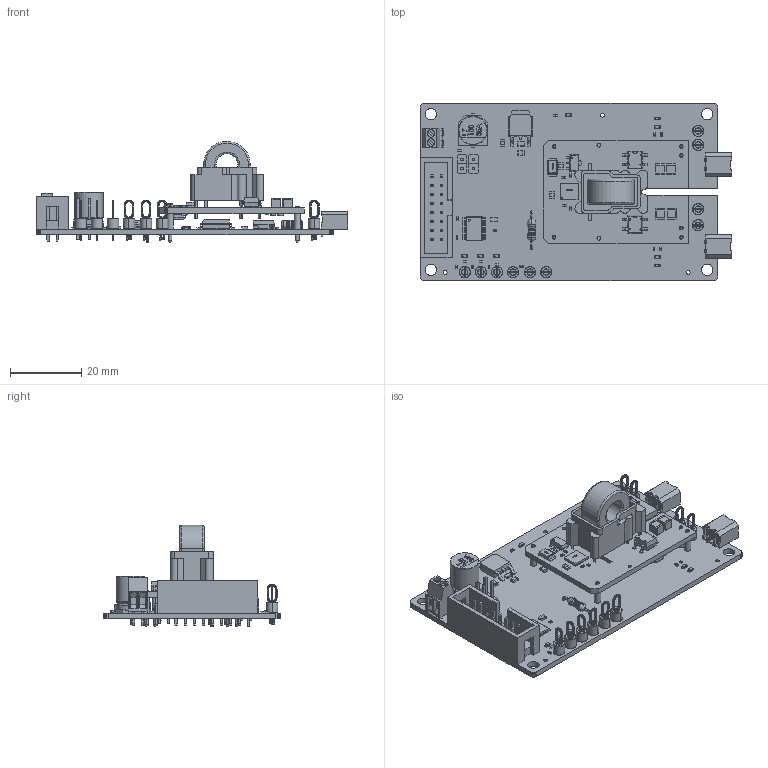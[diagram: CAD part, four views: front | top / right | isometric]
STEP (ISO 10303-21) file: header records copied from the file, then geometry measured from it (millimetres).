
FILE_DESCRIPTION(('for SolidWorks'),'2;1');
FILE_NAME('E:\Google Drive\03 Research & Development Projects\02 Gate Drive Circuit\07 3D Modeling\GDS2SW\STEP\GDS2SW.step', '2015-08-09T04:23:17',('ghayurshah'),(''), 'Open CASCADE STEP processor 6.6','Diptrace','Unknown');
FILE_SCHEMA(('AUTOMOTIVE_DESIGN { 1 0 10303 214 1 1 1 1 }'));
Length unit declared in the file: millimetre
Products named in the file (24): PCB; Board; Model_2; Model_6; Model_9; Model_13; Model_15; Model_24; Model_27; Model_33; Model_35; Model_38; Model_40; Model_43; Model_58; Model_61; Model_63; Model_66; Model_72; Model_74; Model_77; Model_79; Model_81; Model_83
Assembly tree (62 placements, depth 2):
  PCB
    Board
    Model_2  x3
    Model_6  x2
    Model_9  x3
    Model_13
    Model_15  x8
    Model_24  x2
    Model_27  x5
    Model_33
    Model_35  x2
    Model_38
    Model_40  x2
    Model_43  x14
    Model_58  x2
    Model_61
    Model_63  x2
    Model_66  x5
    Model_72
    Model_74  x2
    Model_77
    Model_79
    Model_81
    Model_83
Bounding box: 87.25 x 49.6 x 28.37 mm (x, y, z)
Volume: 6419.3 mm3; surface area: 20704.3 mm2
Topology: 1 solids, 205 shells, 7450 faces, 18364 edges, 11364 vertices
Faces by surface type: plane 4480, bspline 1448, cylinder 1196, sphere 206, torus 100, cone 20
Full cylindrical faces by diameter (mm): 1.05 x5, 3.2 x4
Entity records: 192309 total; most frequent: CARTESIAN_POINT 53790, ORIENTED_EDGE 22602, DIRECTION 20530, EDGE_CURVE 11330, LINE 8202, VECTOR 8202, VERTEX_POINT 7066, AXIS2_PLACEMENT_3D 6164
